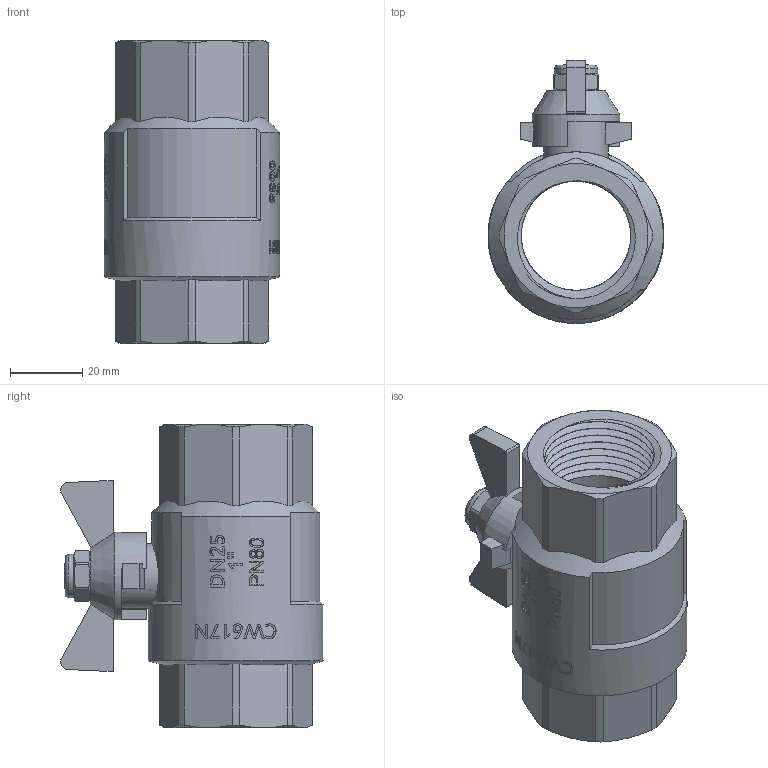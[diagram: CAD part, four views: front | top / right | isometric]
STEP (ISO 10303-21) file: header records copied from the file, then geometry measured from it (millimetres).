
FILE_DESCRIPTION(/* description */ (''),/* implementation_level */ '2;1');
FILE_NAME(/* name */ 'F:\Артём\00000\Работа удаленка\0\B\VT.317.N.06.stp',/* time_stamp */ '2021-02-03T16:05:22+03:00',/* author */ ('almis'),/* organization */ (''),/* preprocessor_version */ 'ST-DEVELOPER v18',/* originating_system */ 'Autodesk Inventor 2020',/* authorisation */ '');
FILE_SCHEMA (('AUTOMOTIVE_DESIGN { 1 0 10303 214 3 1 1 }'));
Length unit declared in the file: millimetre
Products named in the file (1): VT.314_ВВ_1
Bounding box: 48.7 x 72.78 x 84 mm (x, y, z)
Volume: 84223.9 mm3; surface area: 31847.3 mm2
Topology: 1 solids, 1 shells, 576 faces, 1546 edges, 1021 vertices
Faces by surface type: bspline 220, plane 207, cylinder 123, cone 25, torus 1
Full cylindrical faces by diameter (mm): 12.078 x1, 18 x1, 24.322 x1, 30.3 x10, 34.9 x25, 48.5 x1
Entity records: 28973 total; most frequent: CARTESIAN_POINT 15776, ORIENTED_EDGE 3092, DIRECTION 1958, EDGE_CURVE 1546, VERTEX_POINT 1021, LINE 688, VECTOR 688, AXIS2_PLACEMENT_3D 635
